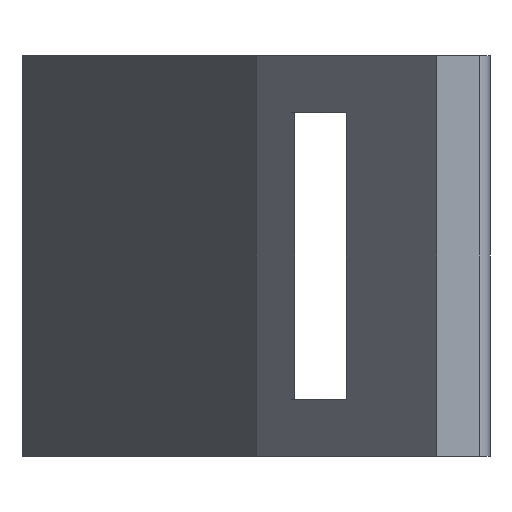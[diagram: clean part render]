
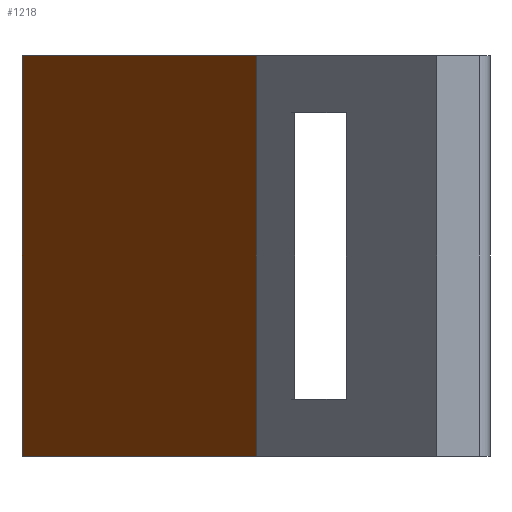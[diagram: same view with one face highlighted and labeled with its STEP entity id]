
A CAD part, left-side view. The second image highlights one B-rep face of the part: STEP entity #1218.
In plain terms, the highlighted planar face has unit normal (-0.432, 0.902, 0).
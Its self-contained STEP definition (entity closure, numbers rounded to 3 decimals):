
#9 = CARTESIAN_POINT ( 'NONE',  ( 25.627, 7.568, 0. ) ) ;
#19 = VERTEX_POINT ( 'NONE', #1222 ) ;
#42 = DIRECTION ( 'NONE',  ( -0.902, -0.432, 0. ) ) ;
#44 = VERTEX_POINT ( 'NONE', #9 ) ;
#92 = CARTESIAN_POINT ( 'NONE',  ( 0., -4.704, 0. ) ) ;
#125 = DIRECTION ( 'NONE',  ( 0., 0., 1. ) ) ;
#197 = EDGE_CURVE ( 'NONE', #19, #880, #408, .T. ) ;
#268 = VECTOR ( 'NONE', #495, 1000. ) ;
#272 = DIRECTION ( 'NONE',  ( -0.432, 0.902, 0. ) ) ;
#299 = DIRECTION ( 'NONE',  ( -0.902, -0.432, 0. ) ) ;
#400 = VECTOR ( 'NONE', #125, 1000. ) ;
#408 = LINE ( 'NONE', #1144, #447 ) ;
#447 = VECTOR ( 'NONE', #42, 1000. ) ;
#453 = ORIENTED_EDGE ( 'NONE', *, *, #1217, .T. ) ;
#495 = DIRECTION ( 'NONE',  ( 0., 0., 1. ) ) ;
#527 = FACE_OUTER_BOUND ( 'NONE', #1069, .T. ) ;
#615 = CARTESIAN_POINT ( 'NONE',  ( 0., -4.704, -9. ) ) ;
#653 = CARTESIAN_POINT ( 'NONE',  ( 1.832, -3.827, 0. ) ) ;
#658 = VECTOR ( 'NONE', #919, 1000. ) ;
#674 = VERTEX_POINT ( 'NONE', #92 ) ;
#841 = CARTESIAN_POINT ( 'NONE',  ( 0., -4.704, 21. ) ) ;
#874 = ORIENTED_EDGE ( 'NONE', *, *, #1520, .F. ) ;
#880 = VERTEX_POINT ( 'NONE', #841 ) ;
#919 = DIRECTION ( 'NONE',  ( -0.902, -0.432, 0. ) ) ;
#1027 = PLANE ( 'NONE',  #1470 ) ;
#1069 = EDGE_LOOP ( 'NONE', ( #453, #1437, #1562, #874 ) ) ;
#1107 = LINE ( 'NONE', #615, #268 ) ;
#1144 = CARTESIAN_POINT ( 'NONE',  ( 25.627, 7.568, 21. ) ) ;
#1169 = EDGE_CURVE ( 'NONE', #674, #880, #1107, .T. ) ;
#1217 = EDGE_CURVE ( 'NONE', #44, #674, #1275, .T. ) ;
#1218 = ADVANCED_FACE ( 'NONE', ( #527 ), #1027, .T. ) ;
#1222 = CARTESIAN_POINT ( 'NONE',  ( 25.627, 7.568, 21. ) ) ;
#1225 = CARTESIAN_POINT ( 'NONE',  ( 25.627, 7.568, -9. ) ) ;
#1275 = LINE ( 'NONE', #653, #658 ) ;
#1381 = CARTESIAN_POINT ( 'NONE',  ( 25.627, 7.568, -9. ) ) ;
#1437 = ORIENTED_EDGE ( 'NONE', *, *, #1169, .T. ) ;
#1453 = LINE ( 'NONE', #1225, #400 ) ;
#1470 = AXIS2_PLACEMENT_3D ( 'NONE', #1381, #272, #299 ) ;
#1520 = EDGE_CURVE ( 'NONE', #44, #19, #1453, .T. ) ;
#1562 = ORIENTED_EDGE ( 'NONE', *, *, #197, .F. ) ;
